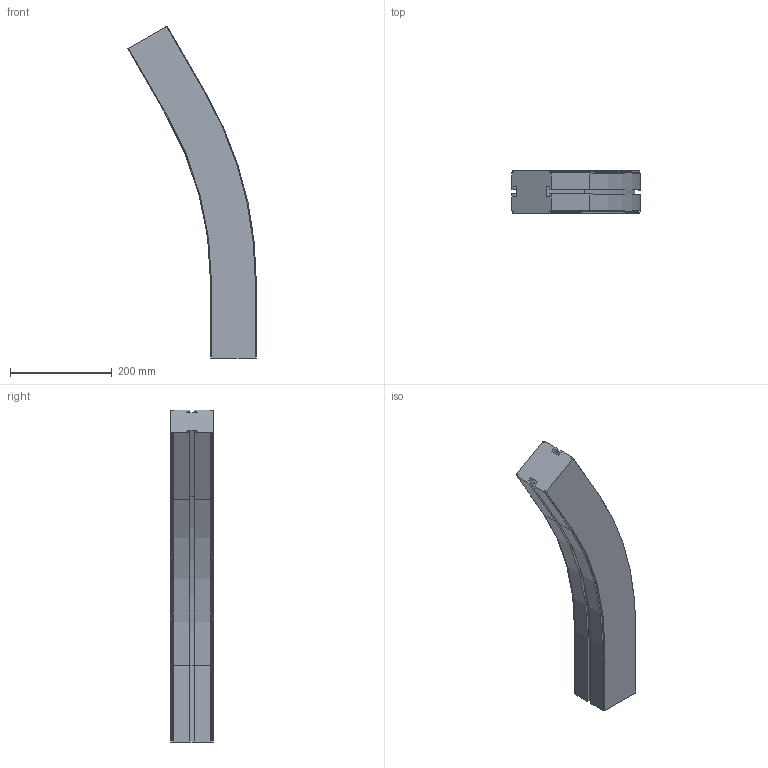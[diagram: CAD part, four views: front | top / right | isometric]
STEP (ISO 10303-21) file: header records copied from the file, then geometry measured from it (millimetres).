
FILE_DESCRIPTION (( 'STEP AP214' ), '1' );
FILE_NAME ('927753 CS090SL Horizontale bochtsectie R400 30°.STEP', '2014-03-20T14:54:19', ( 'Beheerder' ), ( '' ), 'SwSTEP 2.0', 'SolidWorks 2012', '' );
FILE_SCHEMA (( 'AUTOMOTIVE_DESIGN' ));
Length unit declared in the file: millimetre
Products named in the file (1): 927753 CS090SL Horizontale bochtsectie R400 30°
Bounding box: 252.75 x 84 x 652.4 mm (x, y, z)
Volume: 4768697.9 mm3; surface area: 316882.2 mm2
Topology: 1 solids, 1 shells, 98 faces, 272 edges, 176 vertices
Faces by surface type: plane 72, cylinder 18, cone 8
Entity records: 3126 total; most frequent: CARTESIAN_POINT 547, ORIENTED_EDGE 544, DIRECTION 514, EDGE_CURVE 272, VECTOR 228, LINE 228, VERTEX_POINT 176, AXIS2_PLACEMENT_3D 143
